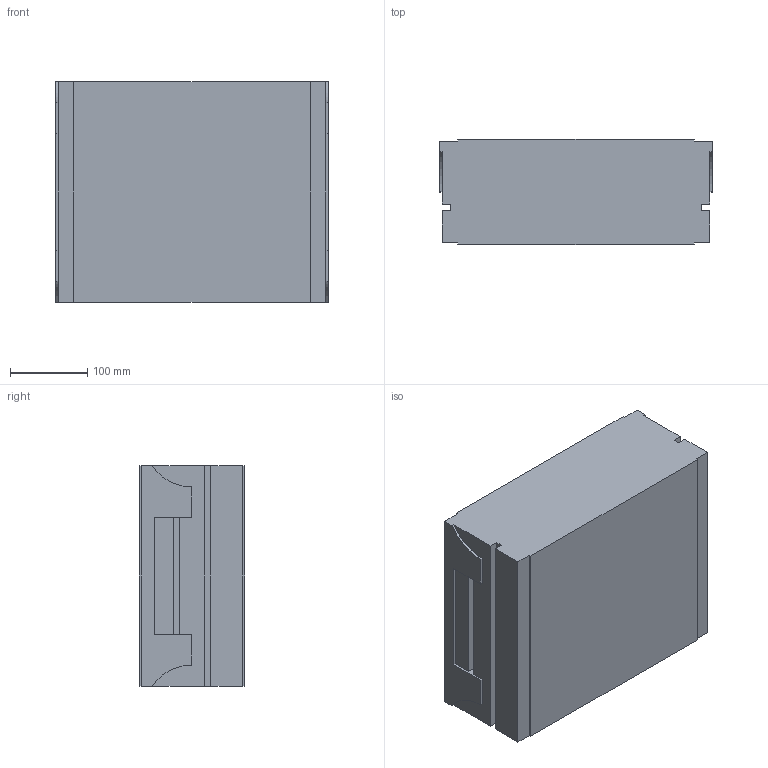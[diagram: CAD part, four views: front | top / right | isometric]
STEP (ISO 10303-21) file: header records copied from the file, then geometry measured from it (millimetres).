
FILE_DESCRIPTION (( 'STEP AP214' ), '1' );
FILE_NAME ('02.150M01.350.N FS-MTC-150 Kettingmont. eenheid.STEP', '2013-03-21T10:13:21', ( 'Gebruiker' ), ( '' ), 'SwSTEP 2.0', 'SolidWorks 2012', '' );
FILE_SCHEMA (( 'AUTOMOTIVE_DESIGN' ));
Length unit declared in the file: millimetre
Products named in the file (1): 02.150M01.350.N FS-MTC-150 Kettingmont. eenheid
Bounding box: 352 x 136 x 285 mm (x, y, z)
Volume: 13325837.3 mm3; surface area: 392242.9 mm2
Topology: 1 solids, 1 shells, 46 faces, 132 edges, 88 vertices
Faces by surface type: plane 42, cylinder 4
Entity records: 1518 total; most frequent: CARTESIAN_POINT 267, ORIENTED_EDGE 264, DIRECTION 234, EDGE_CURVE 132, LINE 124, VECTOR 124, VERTEX_POINT 88, AXIS2_PLACEMENT_3D 55
